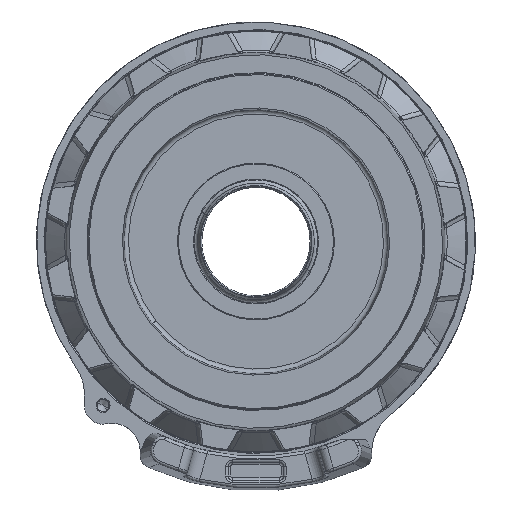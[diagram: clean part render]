
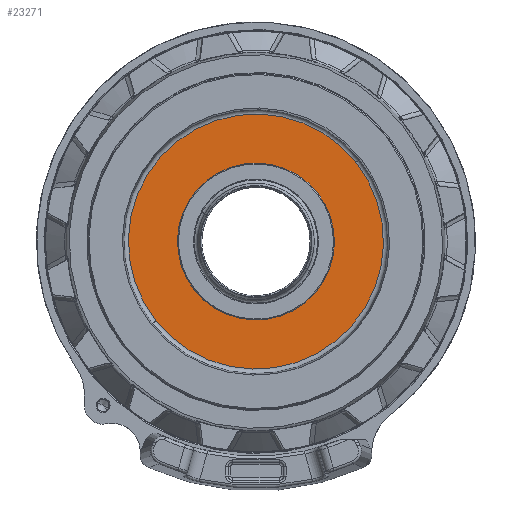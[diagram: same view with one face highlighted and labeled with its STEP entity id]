
A CAD part, left-side view. The second image highlights one B-rep face of the part: STEP entity #23271.
In plain terms, the highlighted planar face has unit normal (-1, 0, 0).
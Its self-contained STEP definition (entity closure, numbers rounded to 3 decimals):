
#23222=AXIS2_PLACEMENT_3D('Circle Axis2P3D',#23220,#23221,$) ;
#23234=AXIS2_PLACEMENT_3D('Circle Axis2P3D',#23232,#23233,$) ;
#23247=AXIS2_PLACEMENT_3D('Plane Axis2P3D',#23244,#23245,#23246) ;
#23255=AXIS2_PLACEMENT_3D('Circle Axis2P3D',#23253,#23254,$) ;
#23264=AXIS2_PLACEMENT_3D('Circle Axis2P3D',#23262,#23263,$) ;
#23210=CARTESIAN_POINT('Vertex',(3397.,-107.065,2904.713)) ;
#23217=CARTESIAN_POINT('Vertex',(3397.,107.065,2735.287)) ;
#23220=CARTESIAN_POINT('Axis2P3D Location',(3397.,0.,2820.)) ;
#23232=CARTESIAN_POINT('Axis2P3D Location',(3397.,0.,2820.)) ;
#23244=CARTESIAN_POINT('Axis2P3D Location',(3397.,32.821,2742.678)) ;
#23253=CARTESIAN_POINT('Axis2P3D Location',(3397.,0.,2820.)) ;
#23257=CARTESIAN_POINT('Vertex',(3397.,-65.874,2872.121)) ;
#23259=CARTESIAN_POINT('Vertex',(3397.,65.874,2767.879)) ;
#23262=CARTESIAN_POINT('Axis2P3D Location',(3397.,0.,2820.)) ;
#23221=DIRECTION('Axis2P3D Direction',(1.,0.,0.)) ;
#23233=DIRECTION('Axis2P3D Direction',(1.,0.,0.)) ;
#23245=DIRECTION('Axis2P3D Direction',(1.,0.,0.)) ;
#23246=DIRECTION('Axis2P3D XDirection',(0.,-0.391,0.921)) ;
#23254=DIRECTION('Axis2P3D Direction',(1.,0.,0.)) ;
#23263=DIRECTION('Axis2P3D Direction',(1.,0.,0.)) ;
#23250=ORIENTED_EDGE('',*,*,#23224,.F.) ;
#23251=ORIENTED_EDGE('',*,*,#23236,.F.) ;
#23268=ORIENTED_EDGE('',*,*,#23261,.T.) ;
#23269=ORIENTED_EDGE('',*,*,#23266,.T.) ;
#23270=FACE_BOUND('',#23267,.T.) ;
#23271=ADVANCED_FACE('RV-400CT.1\\RV-320CA_GEAR.1\\\X2\FF8AFF9FFF70FF82\X0\ \X2\FF8EFF9EFF83FF9EFF68FF70\X0\',(#23252,#23270),#23248,.F.) ;
#23223=CIRCLE('generated circle',#23222,136.526) ;
#23235=CIRCLE('generated circle',#23234,136.526) ;
#23256=CIRCLE('generated circle',#23255,84.) ;
#23265=CIRCLE('generated circle',#23264,84.) ;
#23224=EDGE_CURVE('',#23218,#23211,#23223,.T.) ;
#23236=EDGE_CURVE('',#23211,#23218,#23235,.T.) ;
#23261=EDGE_CURVE('',#23258,#23260,#23256,.T.) ;
#23266=EDGE_CURVE('',#23260,#23258,#23265,.T.) ;
#23249=EDGE_LOOP('',(#23250,#23251)) ;
#23267=EDGE_LOOP('',(#23268,#23269)) ;
#23252=FACE_OUTER_BOUND('',#23249,.T.) ;
#23248=PLANE('',#23247) ;
#23211=VERTEX_POINT('',#23210) ;
#23218=VERTEX_POINT('',#23217) ;
#23258=VERTEX_POINT('',#23257) ;
#23260=VERTEX_POINT('',#23259) ;
